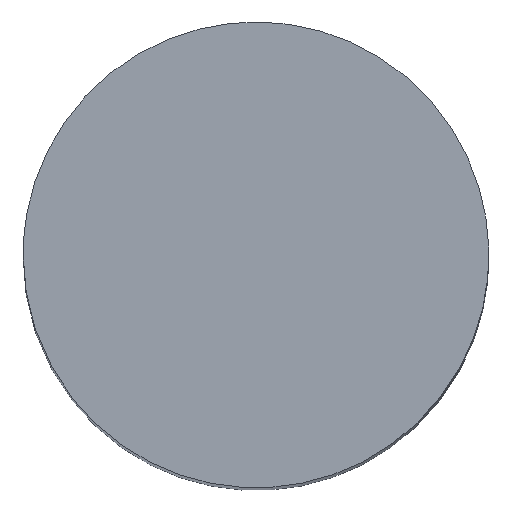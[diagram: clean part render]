
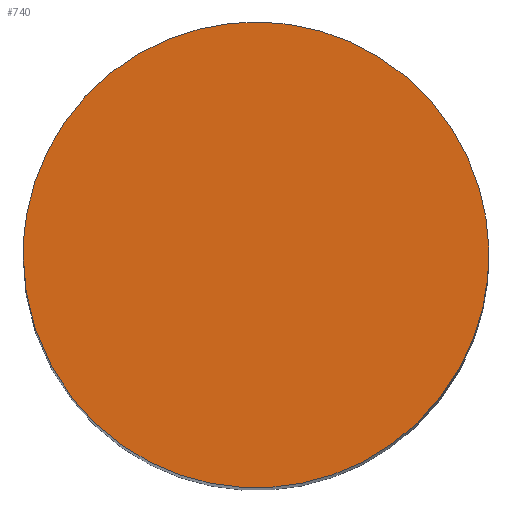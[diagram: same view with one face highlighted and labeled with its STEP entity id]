
A CAD part, top view. The second image highlights one B-rep face of the part: STEP entity #740.
In plain terms, the highlighted free-form (B-spline) face has degree [1, 1] with [2, 2] control points.
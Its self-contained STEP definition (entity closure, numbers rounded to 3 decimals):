
#230 = CARTESIAN_POINT ('', (0., 3., 20.));
#240 = VERTEX_POINT ('', #230);
#300 = CARTESIAN_POINT ('', (0., 3., 20.));
#310 = CARTESIAN_POINT ('', (0., 0., 20.));
#320 = CARTESIAN_POINT ('', (3., 0., 20.));
#330 = CARTESIAN_POINT ('', (6., 0., 20.));
#340 = CARTESIAN_POINT ('', (6., 3., 20.));
#350 = CARTESIAN_POINT ('', (6., 6., 20.));
#360 = CARTESIAN_POINT ('', (3., 6., 20.));
#370 = CARTESIAN_POINT ('', (0., 6., 20.));
#380 = CARTESIAN_POINT ('', (0., 3., 20.));
#390 = (
   BOUNDED_CURVE ()
   B_SPLINE_CURVE (2, (#300, #310, #320, #330, #340, #350, #360, #370, #380), .UNSPECIFIED., .T., .U.)
   B_SPLINE_CURVE_WITH_KNOTS ((3, 2, 2, 2, 3), (0., 4.712, 9.425, 14.137, 18.85), .UNSPECIFIED.)
   CURVE ()
   GEOMETRIC_REPRESENTATION_ITEM ()
   RATIONAL_B_SPLINE_CURVE ((1., 0.707, 1., 0.707, 1., 0.707, 1., 0.707, 1.))
   REPRESENTATION_ITEM ('')
);
#400 = EDGE_CURVE ('', #240, #240, #390, .T.);
#660 = ORIENTED_EDGE ('', *, *, #400, .T.);
#670 = EDGE_LOOP ('', (#660));
#680 = FACE_OUTER_BOUND ('', #670, .T.);
#690 = CARTESIAN_POINT ('', (6.3, 6.3, 20.));
#700 = CARTESIAN_POINT ('', (6.3, -0.3, 20.));
#710 = CARTESIAN_POINT ('', (-0.3, 6.3, 20.));
#720 = CARTESIAN_POINT ('', (-0.3, -0.3, 20.));
#730 = B_SPLINE_SURFACE_WITH_KNOTS ('', 1, 1, ((#690, #700), (#710, #720)), .UNSPECIFIED., .F., .F., .U., (2, 2), (2, 2), (0., 1.), (0., 1.), .UNSPECIFIED.);
#740 = ADVANCED_FACE ('', (#680), #730, .T.);
